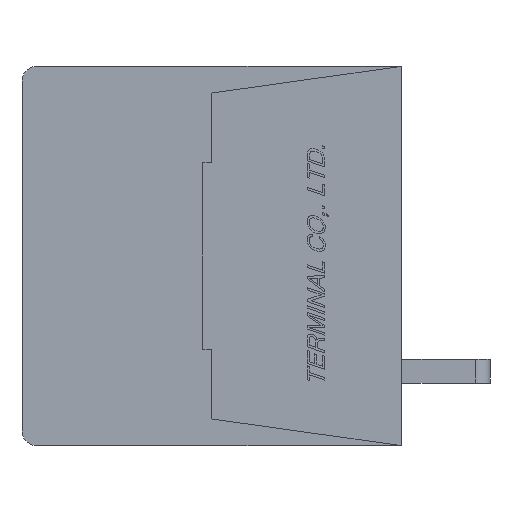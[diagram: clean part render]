
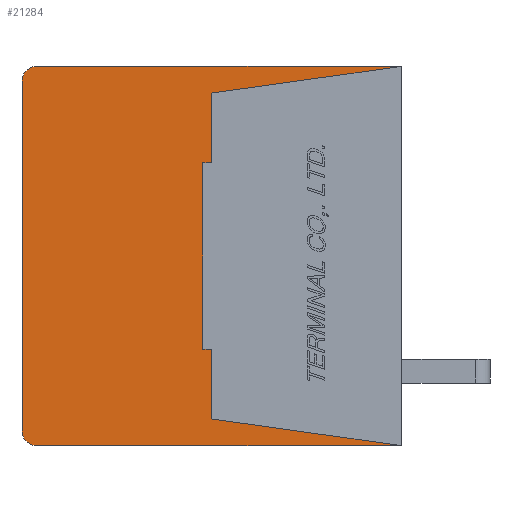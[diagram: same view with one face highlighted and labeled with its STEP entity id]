
A CAD part, left-side view. The second image highlights one B-rep face of the part: STEP entity #21284.
In plain terms, the highlighted planar face has unit normal (-1, 0, 0) as drawn and (1, 0, 0) by its records, which use the part's own axes.
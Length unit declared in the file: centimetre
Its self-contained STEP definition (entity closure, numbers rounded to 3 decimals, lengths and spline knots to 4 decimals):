
#1077=CIRCLE('',#36180,0.05);
#1078=CIRCLE('',#36181,0.05);
#1810=VERTEX_POINT('',#29163);
#1811=VERTEX_POINT('',#29165);
#1817=VERTEX_POINT('',#29179);
#1819=VERTEX_POINT('',#29185);
#1822=VERTEX_POINT('',#29193);
#1824=VERTEX_POINT('',#29199);
#1830=VERTEX_POINT('',#29213);
#1832=VERTEX_POINT('',#29219);
#2183=VERTEX_POINT('',#30759);
#2184=VERTEX_POINT('',#30761);
#2185=VERTEX_POINT('',#30763);
#2186=VERTEX_POINT('',#30765);
#4040=VECTOR('',#24150,1.);
#4047=VECTOR('',#24158,1.);
#4050=VECTOR('',#24162,1.);
#4053=VECTOR('',#24168,1.);
#4056=VECTOR('',#24172,1.);
#4063=VECTOR('',#24180,1.);
#4066=VECTOR('',#24184,1.);
#4486=VECTOR('',#24755,1.);
#4487=VECTOR('',#24758,1.);
#4488=VECTOR('',#24761,1.);
#6537=LINE('',#29164,#4040);
#6544=LINE('',#29178,#4047);
#6547=LINE('',#29184,#4050);
#6550=LINE('',#29192,#4053);
#6553=LINE('',#29198,#4056);
#6560=LINE('',#29212,#4063);
#6563=LINE('',#29218,#4066);
#6983=LINE('',#30758,#4486);
#6984=LINE('',#30762,#4487);
#6985=LINE('',#30766,#4488);
#9263=EDGE_CURVE('',#1811,#1810,#6537,.T.);
#9270=EDGE_CURVE('',#1817,#1811,#6544,.T.);
#9273=EDGE_CURVE('',#1819,#1817,#6547,.T.);
#9277=EDGE_CURVE('',#1822,#1819,#6550,.T.);
#9280=EDGE_CURVE('',#1824,#1822,#6553,.T.);
#9287=EDGE_CURVE('',#1830,#1824,#6560,.T.);
#9290=EDGE_CURVE('',#1832,#1830,#6563,.T.);
#9818=EDGE_CURVE('',#1810,#2183,#6983,.T.);
#9819=EDGE_CURVE('',#2184,#2183,#1077,.T.);
#9820=EDGE_CURVE('',#2184,#2185,#6984,.T.);
#9821=EDGE_CURVE('',#2186,#2185,#1078,.T.);
#9822=EDGE_CURVE('',#2186,#1832,#6985,.T.);
#14491=ORIENTED_EDGE('',*,*,#9263,.T.);
#14492=ORIENTED_EDGE('',*,*,#9818,.T.);
#14493=ORIENTED_EDGE('',*,*,#9819,.F.);
#14494=ORIENTED_EDGE('',*,*,#9820,.T.);
#14495=ORIENTED_EDGE('',*,*,#9821,.F.);
#14496=ORIENTED_EDGE('',*,*,#9822,.T.);
#14497=ORIENTED_EDGE('',*,*,#9290,.T.);
#14498=ORIENTED_EDGE('',*,*,#9287,.T.);
#14499=ORIENTED_EDGE('',*,*,#9280,.T.);
#14500=ORIENTED_EDGE('',*,*,#9277,.T.);
#14501=ORIENTED_EDGE('',*,*,#9273,.T.);
#14502=ORIENTED_EDGE('',*,*,#9270,.T.);
#18593=EDGE_LOOP('',(#14491,#14492,#14493,#14494,#14495,#14496,#14497,#14498,
#14499,#14500,#14501,#14502));
#19984=FACE_BOUND('',#18593,.T.);
#21284=ADVANCED_FACE('',(#19984),#22386,.F.);
#22386=PLANE('',#36179);
#24150=DIRECTION('',(0.,-0.99,-0.139));
#24158=DIRECTION('',(0.,0.,-1.));
#24162=DIRECTION('',(0.,-1.,0.));
#24168=DIRECTION('',(0.,0.,-1.));
#24172=DIRECTION('',(0.,1.,0.));
#24180=DIRECTION('',(0.,0.,-1.));
#24184=DIRECTION('',(0.,0.99,-0.139));
#24754=DIRECTION('',(-1.,0.,0.));
#24755=DIRECTION('',(0.,1.,0.));
#24756=DIRECTION('',(-1.,0.,0.));
#24757=DIRECTION('',(0.,0.,0.05));
#24758=DIRECTION('',(0.,0.,1.));
#24759=DIRECTION('',(-1.,0.,0.));
#24760=DIRECTION('',(0.,0.,0.05));
#24761=DIRECTION('',(0.,-1.,0.));
#29163=CARTESIAN_POINT('',(0.,0.,-0.64));
#29164=CARTESIAN_POINT('',(0.,0.64,-0.55));
#29165=CARTESIAN_POINT('',(0.,0.64,-0.55));
#29178=CARTESIAN_POINT('',(0.,0.64,-0.315));
#29179=CARTESIAN_POINT('',(0.,0.64,-0.315));
#29184=CARTESIAN_POINT('',(0.,0.67,-0.315));
#29185=CARTESIAN_POINT('',(0.,0.67,-0.315));
#29192=CARTESIAN_POINT('',(0.,0.67,0.315));
#29193=CARTESIAN_POINT('',(0.,0.67,0.315));
#29198=CARTESIAN_POINT('',(0.,0.64,0.315));
#29199=CARTESIAN_POINT('',(0.,0.64,0.315));
#29212=CARTESIAN_POINT('',(0.,0.64,0.55));
#29213=CARTESIAN_POINT('',(0.,0.64,0.55));
#29218=CARTESIAN_POINT('',(0.,0.,0.64));
#29219=CARTESIAN_POINT('',(0.,0.,0.64));
#30757=CARTESIAN_POINT('',(0.,0.6345,0.));
#30758=CARTESIAN_POINT('',(0.,0.,-0.64));
#30759=CARTESIAN_POINT('',(0.,1.23,-0.64));
#30760=CARTESIAN_POINT('',(0.,1.23,-0.59));
#30761=CARTESIAN_POINT('',(0.,1.28,-0.59));
#30762=CARTESIAN_POINT('',(0.,1.28,-0.59));
#30763=CARTESIAN_POINT('',(0.,1.28,0.59));
#30764=CARTESIAN_POINT('',(0.,1.23,0.59));
#30765=CARTESIAN_POINT('',(0.,1.23,0.64));
#30766=CARTESIAN_POINT('',(0.,1.23,0.64));
#36179=AXIS2_PLACEMENT_3D('',#30757,#24754,$);
#36180=AXIS2_PLACEMENT_3D('',#30760,#24756,#24757);
#36181=AXIS2_PLACEMENT_3D('',#30764,#24759,#24760);
